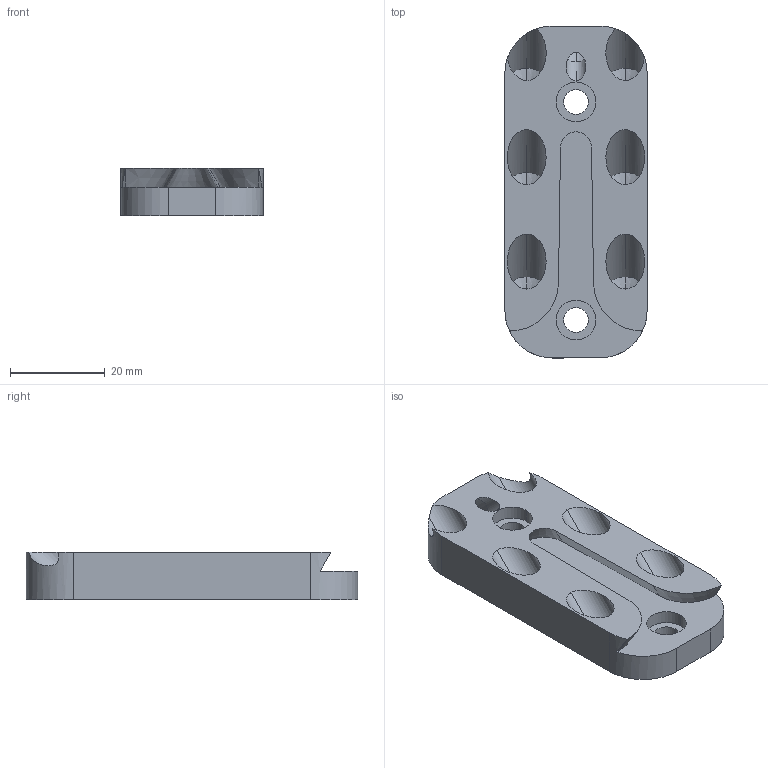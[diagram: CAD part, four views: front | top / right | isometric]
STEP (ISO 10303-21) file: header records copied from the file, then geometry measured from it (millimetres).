
FILE_DESCRIPTION (( 'STEP AP203' ), '1' );
FILE_NAME ('UV_20_NT_Holz.STEP', '2019-03-19T08:40:35', ( '' ), ( '' ), 'SwSTEP 2.0', 'SolidWorks 2013', '' );
FILE_SCHEMA (( 'CONFIG_CONTROL_DESIGN' ));
Length unit declared in the file: millimetre
Products named in the file (1): UV_20_NT_Holz
Bounding box: 30 x 70 x 10 mm (x, y, z)
Volume: 13492.7 mm3; surface area: 8091.6 mm2
Topology: 1 solids, 1 shells, 70 faces, 179 edges, 110 vertices
Faces by surface type: cylinder 40, cone 17, plane 13
Entity records: 2268 total; most frequent: CARTESIAN_POINT 518, ORIENTED_EDGE 358, DIRECTION 347, EDGE_CURVE 179, AXIS2_PLACEMENT_3D 133, VERTEX_POINT 110, EDGE_LOOP 87, VECTOR 81
